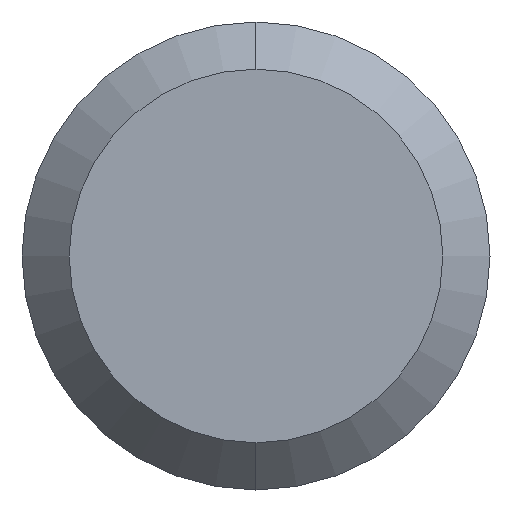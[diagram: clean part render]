
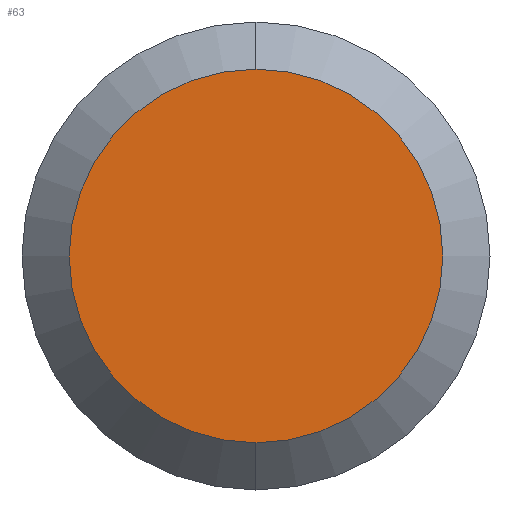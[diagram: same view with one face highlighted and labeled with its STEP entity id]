
A CAD part, left-side view. The second image highlights one B-rep face of the part: STEP entity #63.
In plain terms, the highlighted planar face has unit normal (-1, 0, 0).
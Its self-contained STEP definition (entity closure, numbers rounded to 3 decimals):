
#1 = DIRECTION ( 'NONE',  ( 0., 0., -1. ) ) ;
#3 = AXIS2_PLACEMENT_3D ( 'NONE', #273, #38, #1 ) ;
#8 = CARTESIAN_POINT ( 'NONE',  ( -128.5, 0., 3.169 ) ) ;
#17 = CIRCLE ( 'NONE', #230, 3.169 ) ;
#38 = DIRECTION ( 'NONE',  ( -1., 0., 0. ) ) ;
#48 = VERTEX_POINT ( 'NONE', #8 ) ;
#59 = CIRCLE ( 'NONE', #3, 3.169 ) ;
#63 = ADVANCED_FACE ( 'NONE', ( #224 ), #390, .F. ) ;
#133 = DIRECTION ( 'NONE',  ( -1., 0., 0. ) ) ;
#147 = DIRECTION ( 'NONE',  ( 1., 0., 0. ) ) ;
#216 = ORIENTED_EDGE ( 'NONE', *, *, #238, .T. ) ;
#224 = FACE_OUTER_BOUND ( 'NONE', #295, .T. ) ;
#230 = AXIS2_PLACEMENT_3D ( 'NONE', #376, #133, #344 ) ;
#233 = CARTESIAN_POINT ( 'NONE',  ( -128.5, 0., -3.169 ) ) ;
#238 = EDGE_CURVE ( 'NONE', #297, #48, #59, .T. ) ;
#255 = ORIENTED_EDGE ( 'NONE', *, *, #283, .T. ) ;
#273 = CARTESIAN_POINT ( 'NONE',  ( -128.5, 0., 0. ) ) ;
#283 = EDGE_CURVE ( 'NONE', #48, #297, #17, .T. ) ;
#295 = EDGE_LOOP ( 'NONE', ( #216, #255 ) ) ;
#297 = VERTEX_POINT ( 'NONE', #233 ) ;
#344 = DIRECTION ( 'NONE',  ( 0., 0., -1. ) ) ;
#358 = DIRECTION ( 'NONE',  ( 0., 0., -1. ) ) ;
#376 = CARTESIAN_POINT ( 'NONE',  ( -128.5, 0., 0. ) ) ;
#390 = PLANE ( 'NONE',  #391 ) ;
#391 = AXIS2_PLACEMENT_3D ( 'NONE', #392, #147, #358 ) ;
#392 = CARTESIAN_POINT ( 'NONE',  ( -128.5, 3.969, 0. ) ) ;
